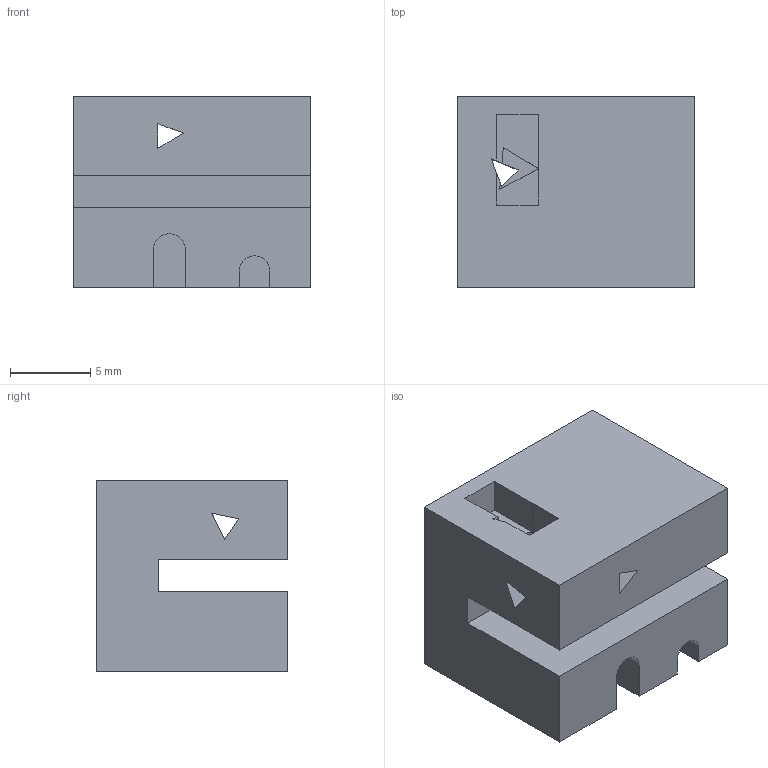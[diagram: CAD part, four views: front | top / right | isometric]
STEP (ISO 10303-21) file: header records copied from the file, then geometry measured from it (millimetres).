
FILE_DESCRIPTION(('Open CASCADE Model'),'2;1');
FILE_NAME('Open CASCADE Shape Model','2021-05-10T10:35:22',('Author'),( 'Open CASCADE'),'Open CASCADE STEP processor 7.4','Open CASCADE 7.4' ,'Unknown');
FILE_SCHEMA(('AUTOMOTIVE_DESIGN { 1 0 10303 214 1 1 1 1 }'));
Length unit declared in the file: millimetre
Products named in the file (1): Open CASCADE STEP translator 7.4 1069
Bounding box: 14.82 x 11.94 x 11.96 mm (x, y, z)
Volume: 1733.4 mm3; surface area: 1467.8 mm2
Topology: 1 solids, 1 shells, 49 faces, 147 edges, 98 vertices
Faces by surface type: plane 46, cylinder 3
Entity records: 3507 total; most frequent: CARTESIAN_POINT 677, DIRECTION 474, LINE 359, VECTOR 359, ORIENTED_EDGE 294, PCURVE 294, DEFINITIONAL_REPRESENTATION 294, EDGE_CURVE 147
